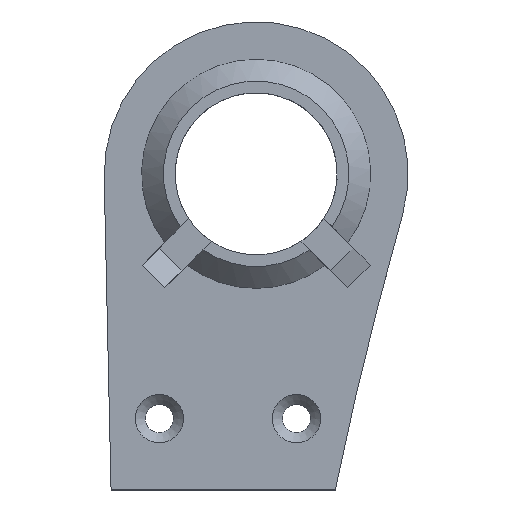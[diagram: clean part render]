
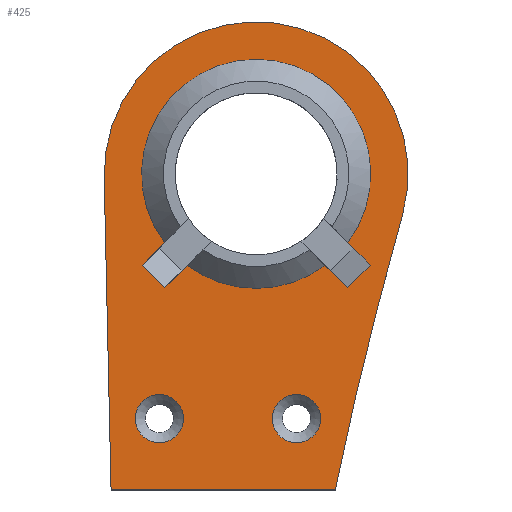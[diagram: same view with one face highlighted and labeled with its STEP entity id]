
A CAD part, top view. The second image highlights one B-rep face of the part: STEP entity #425.
In plain terms, the highlighted planar face has unit normal (0, 0, 1).
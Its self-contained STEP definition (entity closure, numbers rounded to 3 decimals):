
#24=FACE_BOUND('',#94,.T.);
#25=FACE_BOUND('',#95,.T.);
#26=FACE_BOUND('',#96,.T.);
#45=CIRCLE('',#453,480.009);
#46=CIRCLE('',#454,18.85);
#47=CIRCLE('',#455,14.2);
#48=CIRCLE('',#456,14.2);
#49=CIRCLE('',#457,3.);
#50=CIRCLE('',#458,3.);
#70=FACE_OUTER_BOUND('',#93,.T.);
#93=EDGE_LOOP('',(#329,#330,#331,#332));
#94=EDGE_LOOP('',(#333,#334,#335,#336,#337,#338,#339,#340));
#95=EDGE_LOOP('',(#341));
#96=EDGE_LOOP('',(#342));
#122=LINE('',#611,#154);
#126=LINE('',#620,#158);
#132=LINE('',#637,#164);
#134=LINE('',#649,#166);
#139=LINE('',#674,#171);
#142=LINE('',#685,#174);
#143=LINE('',#692,#175);
#144=LINE('',#697,#176);
#154=VECTOR('',#491,10.);
#158=VECTOR('',#497,10.);
#164=VECTOR('',#513,10.);
#166=VECTOR('',#517,10.);
#171=VECTOR('',#524,10.);
#174=VECTOR('',#529,10.);
#175=VECTOR('',#532,10.);
#176=VECTOR('',#537,10.);
#183=VERTEX_POINT('',#604);
#186=VERTEX_POINT('',#609);
#187=VERTEX_POINT('',#613);
#190=VERTEX_POINT('',#618);
#196=VERTEX_POINT('',#636);
#199=VERTEX_POINT('',#648);
#206=VERTEX_POINT('',#670);
#210=VERTEX_POINT('',#684);
#211=VERTEX_POINT('',#690);
#212=VERTEX_POINT('',#691);
#213=VERTEX_POINT('',#693);
#214=VERTEX_POINT('',#695);
#215=VERTEX_POINT('',#700);
#216=VERTEX_POINT('',#702);
#229=EDGE_CURVE('',#186,#183,#122,.T.);
#233=EDGE_CURVE('',#190,#187,#126,.T.);
#241=EDGE_CURVE('',#196,#187,#132,.T.);
#245=EDGE_CURVE('',#186,#199,#134,.T.);
#254=EDGE_CURVE('',#190,#206,#139,.T.);
#258=EDGE_CURVE('',#210,#183,#142,.T.);
#260=EDGE_CURVE('',#211,#212,#143,.T.);
#261=EDGE_CURVE('',#212,#213,#45,.T.);
#262=EDGE_CURVE('',#213,#214,#46,.T.);
#263=EDGE_CURVE('',#214,#211,#144,.T.);
#264=EDGE_CURVE('',#196,#199,#47,.T.);
#265=EDGE_CURVE('',#210,#206,#48,.T.);
#266=EDGE_CURVE('',#215,#215,#49,.T.);
#267=EDGE_CURVE('',#216,#216,#50,.T.);
#329=ORIENTED_EDGE('',*,*,#260,.T.);
#330=ORIENTED_EDGE('',*,*,#261,.T.);
#331=ORIENTED_EDGE('',*,*,#262,.T.);
#332=ORIENTED_EDGE('',*,*,#263,.T.);
#333=ORIENTED_EDGE('',*,*,#245,.T.);
#334=ORIENTED_EDGE('',*,*,#264,.F.);
#335=ORIENTED_EDGE('',*,*,#241,.T.);
#336=ORIENTED_EDGE('',*,*,#233,.F.);
#337=ORIENTED_EDGE('',*,*,#254,.T.);
#338=ORIENTED_EDGE('',*,*,#265,.F.);
#339=ORIENTED_EDGE('',*,*,#258,.T.);
#340=ORIENTED_EDGE('',*,*,#229,.F.);
#341=ORIENTED_EDGE('',*,*,#266,.T.);
#342=ORIENTED_EDGE('',*,*,#267,.T.);
#411=PLANE('',#452);
#425=ADVANCED_FACE('',(#70,#24,#25,#26),#411,.T.);
#452=AXIS2_PLACEMENT_3D('',#689,#530,#531);
#453=AXIS2_PLACEMENT_3D('',#694,#533,#534);
#454=AXIS2_PLACEMENT_3D('',#696,#535,#536);
#455=AXIS2_PLACEMENT_3D('',#698,#538,#539);
#456=AXIS2_PLACEMENT_3D('',#699,#540,#541);
#457=AXIS2_PLACEMENT_3D('',#701,#542,#543);
#458=AXIS2_PLACEMENT_3D('',#703,#544,#545);
#491=DIRECTION('',(0.707,0.707,0.));
#497=DIRECTION('',(0.707,-0.707,0.));
#513=DIRECTION('',(-0.707,-0.707,0.));
#517=DIRECTION('',(-0.707,0.707,0.));
#524=DIRECTION('',(0.707,0.707,0.));
#529=DIRECTION('',(0.707,-0.707,0.));
#530=DIRECTION('center_axis',(0.,0.,1.));
#531=DIRECTION('ref_axis',(1.,0.,0.));
#532=DIRECTION('',(1.,0.,0.));
#533=DIRECTION('center_axis',(0.,0.,-1.));
#534=DIRECTION('ref_axis',(0.97,-0.245,0.));
#535=DIRECTION('center_axis',(0.,0.,1.));
#536=DIRECTION('ref_axis',(0.962,-0.273,0.));
#537=DIRECTION('',(0.022,-1.,0.));
#538=DIRECTION('center_axis',(0.,0.,1.));
#539=DIRECTION('ref_axis',(-1.,0.,0.));
#540=DIRECTION('center_axis',(0.,0.,1.));
#541=DIRECTION('ref_axis',(-1.,0.,0.));
#542=DIRECTION('center_axis',(0.,0.,-1.));
#543=DIRECTION('ref_axis',(1.,0.,0.));
#544=DIRECTION('center_axis',(0.,0.,-1.));
#545=DIRECTION('ref_axis',(1.,0.,0.));
#604=CARTESIAN_POINT('',(14.142,-11.314,2.));
#609=CARTESIAN_POINT('',(11.314,-14.142,2.));
#611=CARTESIAN_POINT('',(7.929,-17.527,2.));
#613=CARTESIAN_POINT('',(-11.314,-14.142,2.));
#618=CARTESIAN_POINT('',(-14.142,-11.314,2.));
#620=CARTESIAN_POINT('',(-10.754,-14.702,2.));
#636=CARTESIAN_POINT('',(-8.527,-11.355,2.));
#637=CARTESIAN_POINT('',(-7.981,-10.809,2.));
#648=CARTESIAN_POINT('',(8.527,-11.355,2.));
#649=CARTESIAN_POINT('',(1.974,-4.802,2.));
#670=CARTESIAN_POINT('',(-11.355,-8.527,2.));
#674=CARTESIAN_POINT('',(-4.799,-1.97,2.));
#684=CARTESIAN_POINT('',(11.355,-8.527,2.));
#685=CARTESIAN_POINT('',(9.399,-6.57,2.));
#689=CARTESIAN_POINT('Origin',(-2.821,-13.545,2.));
#690=CARTESIAN_POINT('',(-17.994,-39.194,2.));
#691=CARTESIAN_POINT('',(9.819,-39.194,2.));
#692=CARTESIAN_POINT('',(-17.994,-39.194,2.));
#693=CARTESIAN_POINT('',(18.136,-5.138,2.));
#694=CARTESIAN_POINT('Origin',(479.972,-135.968,2.));
#695=CARTESIAN_POINT('',(-18.845,-0.414,2.));
#696=CARTESIAN_POINT('Origin',(0.,0.,2.));
#697=CARTESIAN_POINT('',(-18.845,-0.414,2.));
#698=CARTESIAN_POINT('Origin',(0.,0.,2.));
#699=CARTESIAN_POINT('Origin',(0.,0.,2.));
#700=CARTESIAN_POINT('',(-9.,-30.344,2.));
#701=CARTESIAN_POINT('Origin',(-12.,-30.344,2.));
#702=CARTESIAN_POINT('',(8.,-30.344,2.));
#703=CARTESIAN_POINT('Origin',(5.,-30.344,2.));
